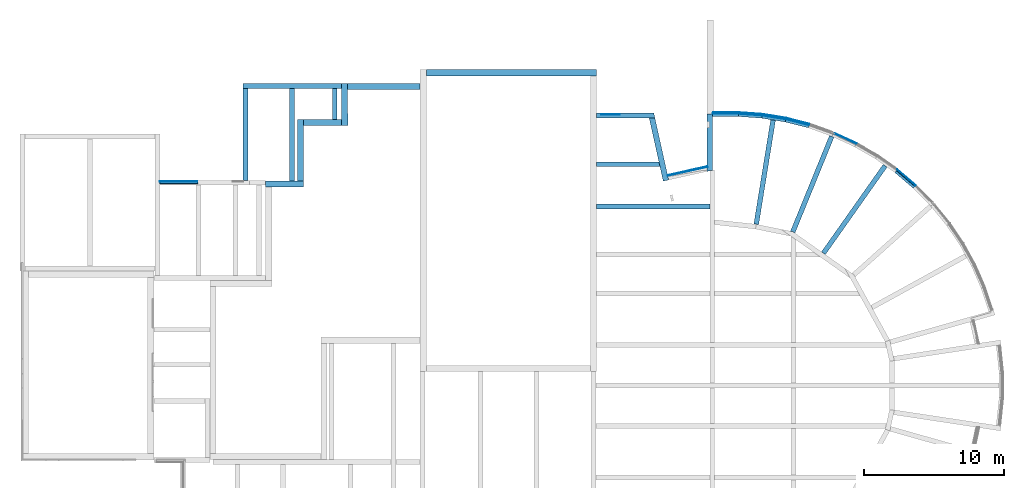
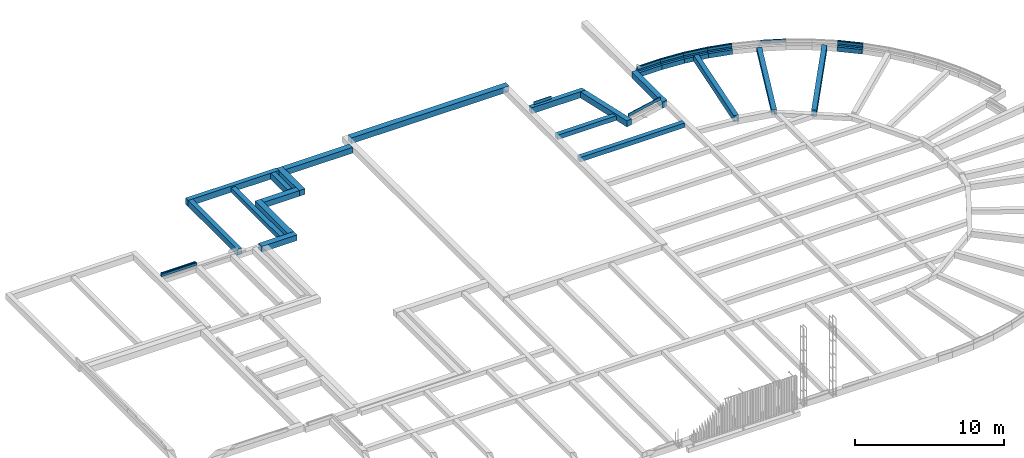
# One storey, part 5 of 11: 38 walls.
"""IFC2X3 building model written with IfcOpenShell, lengths in millimetres."""

import ifcopenshell
import ifcopenshell.guid

model = None  # the IFC model being written
_history = None  # IfcOwnerHistory: only IFC2X3 demands one
_inside = {}  # id of a spatial element -> (the spatial element, [elements in it])
_under = {}  # id of a project, library or spatial element -> (it, [spatial elements below it])
_declared = {}  # id of a project -> (the project, [libraries it declares])
_typed = {}  # id of a type object -> (the type object, [elements of that type])
_made_of = {}  # id of a material, layer set ... -> (it, [elements and type objects made of it])


def new_model(schema):
    """Start an empty IFC model of exactly this schema.

    Asked for "IFC4X3", IfcOpenShell would pick the latest addendum, in which some entities
    have other attributes; the version numbers below select the first issue.
    IFC2X3 requires an IfcOwnerHistory on every rooted entity: one is made here for all.
    """
    global model, _history
    if schema == "IFC4X3":
        model = ifcopenshell.file(schema_version=(4, 3, 0, 0))
    else:
        model = ifcopenshell.file(schema=schema)
    _inside.clear()
    _under.clear()
    _declared.clear()
    _typed.clear()
    _made_of.clear()
    _history = None
    if model.schema == "IFC2X3":
        org = make("IfcOrganization", Name="unknown")
        user = make(
            "IfcPersonAndOrganization",
            ThePerson=make("IfcPerson", FamilyName="unknown"),
            TheOrganization=org,
        )
        app = make(
            "IfcApplication",
            ApplicationDeveloper=org,
            Version="unknown",
            ApplicationFullName="unknown",
            ApplicationIdentifier="unknown",
        )
        _history = make(
            "IfcOwnerHistory",
            OwningUser=user,
            OwningApplication=app,
            ChangeAction="ADDED",
            CreationDate=0,
        )
    return model


def make(cls, **values):
    """One entity of the class cls with the attributes given. An attribute that is None is left unset."""
    return model.create_entity(
        cls, **{name: value for name, value in values.items() if value is not None}
    )


def entity(cls, *values):
    """Any entity or typed value of the class cls, its attributes in the order of the schema. None: left unset."""
    e = model.create_entity(cls)
    for i, value in enumerate(values):
        if value is not None:
            e[i] = value
    return e


def rooted(cls, **values):
    """An entity with a GlobalId (a new one), such as an element, a storey or a relation."""
    return make(cls, GlobalId=ifcopenshell.guid.new(), OwnerHistory=_history, **values)


def si_unit(unit_type, name, prefix=None):
    """IfcSIUnit, for example si_unit("LENGTHUNIT", "METRE", prefix="MILLI")."""
    return make("IfcSIUnit", UnitType=unit_type, Prefix=prefix, Name=name)


def converted_unit(unit_type, name, factor, base, dimensions=None, offset=None):
    """IfcConversionBasedUnit, such as the inch: factor (a typed value) times the base unit."""
    return make(
        "IfcConversionBasedUnit"
        if offset is None
        else "IfcConversionBasedUnitWithOffset",
        ConversionOffset=offset,
        Dimensions=None
        if dimensions is None
        else entity("IfcDimensionalExponents", *dimensions),
        UnitType=unit_type,
        Name=name,
        ConversionFactor=make(
            "IfcMeasureWithUnit", ValueComponent=factor, UnitComponent=base
        ),
    )


def derived_unit(unit_type, elements):
    """IfcDerivedUnit: a product of units, each with its exponent."""
    return make(
        "IfcDerivedUnit",
        Elements=[
            make("IfcDerivedUnitElement", Unit=unit, Exponent=power)
            for unit, power in elements
        ],
        UnitType=unit_type,
    )


def assignment(units):
    """IfcUnitAssignment: the units of a project."""
    return None if units is None else make("IfcUnitAssignment", Units=units)


def point(xyz):
    """IfcCartesianPoint."""
    return None if xyz is None else make("IfcCartesianPoint", Coordinates=xyz)


def direction(xyz):
    """IfcDirection."""
    return None if xyz is None else make("IfcDirection", DirectionRatios=xyz)


def frame(location, z_axis=None, x_axis=None):
    """IfcAxis2Placement3D, a coordinate frame: its origin and axes. An axis left out is left unset."""
    return make(
        "IfcAxis2Placement3D",
        Location=point(location),
        Axis=direction(z_axis),
        RefDirection=direction(x_axis),
    )


def frame_2d(location, x_axis=None):
    """IfcAxis2Placement2D, a coordinate frame in the plane: its origin and x axis."""
    return make(
        "IfcAxis2Placement2D", Location=point(location), RefDirection=direction(x_axis)
    )


def origin():
    """The frame at (0, 0, 0) with its axes left unset."""
    return frame((0.0, 0.0, 0.0))


def place(relative_to, where):
    """IfcLocalPlacement: puts the frame where relative to a parent placement (None: the world)."""
    return make(
        "IfcLocalPlacement", PlacementRelTo=relative_to, RelativePlacement=where
    )


def context(
    kind, dimensions, precision=None, world=None, true_north=None, identifier=None
):
    """IfcGeometricRepresentationContext, for example the 3D "Model" context."""
    return make(
        "IfcGeometricRepresentationContext",
        ContextIdentifier=identifier,
        ContextType=kind,
        CoordinateSpaceDimension=dimensions,
        Precision=precision,
        WorldCoordinateSystem=world,
        TrueNorth=true_north,
    )


def subcontext(parent, identifier, kind, view, scale=None):
    """IfcGeometricRepresentationSubContext, for example "Body" below "Model"."""
    return make(
        "IfcGeometricRepresentationSubContext",
        ContextIdentifier=identifier,
        ContextType=kind,
        ParentContext=parent,
        TargetScale=scale,
        TargetView=view,
    )


def project(units=None, contexts=None):
    """IfcProject with its units and contexts."""
    return rooted(
        "IfcProject",
        Name="project",
        RepresentationContexts=contexts,
        UnitsInContext=assignment(units),
    )


def spatial(cls, under=None, at=None, **own):
    """A site, building, storey or space (cls), placed at a placement, below another one or the project."""
    s = rooted(cls, ObjectPlacement=at, **own)
    if under is not None:
        _under.setdefault(under.id(), (under, []))[1].append(s)
    return s


def polyline(points):
    """IfcPolyline through the points."""
    return make("IfcPolyline", Points=[point(p) for p in points])


def profile(cls, at=None, kind="AREA", **sizes):
    """A parametric profile (cls). Its sizes go by their IFC names, for example OverallWidth=200.0."""
    return make(cls, ProfileType=kind, Position=at, **sizes)


def rectangle(**sizes):
    """IfcRectangleProfileDef."""
    return profile("IfcRectangleProfileDef", **sizes)


def outline(outer, holes=None, kind="AREA"):
    """IfcArbitraryClosedProfileDef: a profile drawn as a closed curve; with holes, ...WithVoids."""
    if holes is None:
        return make("IfcArbitraryClosedProfileDef", ProfileType=kind, OuterCurve=outer)
    return make(
        "IfcArbitraryProfileDefWithVoids",
        ProfileType=kind,
        OuterCurve=outer,
        InnerCurves=holes,
    )


def extrude(swept, where, along, depth):
    """IfcExtrudedAreaSolid: the profile swept, set in the frame where, extruded along a direction by depth."""
    return make(
        "IfcExtrudedAreaSolid",
        SweptArea=swept,
        Position=where,
        ExtrudedDirection=direction(along),
        Depth=depth,
    )


def clip(a, b, op="DIFFERENCE"):
    """IfcBooleanClippingResult: the solid a cut by the half space b."""
    return make(
        "IfcBooleanClippingResult", Operator=op, FirstOperand=a, SecondOperand=b
    )


def bounded_halfspace(plane, agree, where, boundary):
    """IfcPolygonalBoundedHalfSpace: a half space limited to a polygon's prism."""
    return make(
        "IfcPolygonalBoundedHalfSpace",
        BaseSurface=make("IfcPlane", Position=plane),
        AgreementFlag=agree,
        Position=where,
        PolygonalBoundary=boundary,
    )


def shape(context_of_items, identifier, shape_type, items):
    """IfcShapeRepresentation: the items that make up one representation, for example the "Body"."""
    return make(
        "IfcShapeRepresentation",
        ContextOfItems=context_of_items,
        RepresentationIdentifier=identifier,
        RepresentationType=shape_type,
        Items=items,
    )


def material(Name=None, Category=None):
    """IfcMaterial."""
    return make("IfcMaterial", Name=Name, Category=Category)


def layer(
    of_material, thickness, ventilated=None, Name=None, Category=None, Priority=None
):
    """IfcMaterialLayer: one layer of a wall or slab, of a material (None: an air gap)."""
    return make(
        "IfcMaterialLayer",
        Material=of_material,
        LayerThickness=thickness,
        IsVentilated=ventilated,
        Name=Name,
        Category=Category,
        Priority=Priority,
    )


def layer_set(layers, Name=None):
    """IfcMaterialLayerSet."""
    return make("IfcMaterialLayerSet", MaterialLayers=layers, LayerSetName=Name)


def layer_usage(for_layer_set, set_direction, sense, offset, extent=None):
    """IfcMaterialLayerSetUsage: how a layer set lies in its element."""
    return make(
        "IfcMaterialLayerSetUsage",
        ForLayerSet=for_layer_set,
        LayerSetDirection=set_direction,
        DirectionSense=sense,
        OffsetFromReferenceLine=offset,
        ReferenceExtent=extent,
    )


def made_of(thing, what):
    """Note that an element or type object is made of a material, layer set ...; save() writes the relation."""
    if what is not None:
        _made_of.setdefault(what.id(), (what, []))[1].append(thing)
    return thing


def type_object(cls, material=None, **own):
    """A type object (cls), such as IfcWallType, which elements share."""
    return made_of(rooted(cls, **own), material)


def element(
    cls,
    number,
    at=None,
    inside=None,
    cuts=None,
    type_object=None,
    material=None,
    context=None,
    identifier="Body",
    shape_type=None,
    held_by="IfcProductDefinitionShape",
    body=None,
    shapes=None,
    **own,
):
    """One element of the class cls, such as IfcWall. Its Tag is "e" and its number.

    at: its placement. inside: the storey or other place that contains it. cuts: it is an
    opening in that element (IfcRelVoidsElement). A single representation is given by context,
    identifier, shape_type and body (its items); several are given by shapes. held_by: the class
    of the entity that holds the representations. save() writes the other relations.
    """
    e = rooted(cls, Tag="e%d" % number, ObjectPlacement=at, **own)
    if body is not None:
        shapes = [shape(context, identifier, shape_type, body)]
    if shapes is not None:
        e.Representation = make(held_by, Representations=shapes)
    if inside is not None:
        _inside.setdefault(inside.id(), (inside, []))[1].append(e)
    if cuts is not None:
        rooted(
            "IfcRelVoidsElement", RelatingBuildingElement=cuts, RelatedOpeningElement=e
        )
    if type_object is not None:
        _typed.setdefault(type_object.id(), (type_object, []))[1].append(e)
    return made_of(e, material)


def aggregate(whole, parts):
    """IfcRelAggregates: a whole, such as a stair, and the parts it consists of."""
    return rooted("IfcRelAggregates", RelatingObject=whole, RelatedObjects=parts)


def save(model, path):
    """Write the relations noted so far, then the file.

    IfcRelAggregates (storeys below a building ...), IfcRelContainedInSpatialStructure (elements
    in a storey), IfcRelDefinesByType, IfcRelAssociatesMaterial and IfcRelDeclares: one each for
    every whole, place, type object, material and project.
    """
    for whole, parts in _under.values():
        aggregate(whole, parts)
    for where, things in _inside.values():
        rooted(
            "IfcRelContainedInSpatialStructure",
            RelatedElements=things,
            RelatingStructure=where,
        )
    for kind, things in _typed.values():
        rooted("IfcRelDefinesByType", RelatedObjects=things, RelatingType=kind)
    for what, things in _made_of.values():
        rooted("IfcRelAssociatesMaterial", RelatedObjects=things, RelatingMaterial=what)
    for by, libraries in _declared.values():
        rooted("IfcRelDeclares", RelatingContext=by, RelatedDefinitions=libraries)
    model.write(path)


model = new_model("IFC2X3")

# Units and contexts
model_context = context("Model", 3, precision=0.01, world=origin(), true_north=direction((6.12303176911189e-17, 1.0)))
body_context = subcontext(model_context, "Body", "Model", "MODEL_VIEW")
ifc_project = project(units=[si_unit("LENGTHUNIT", "METRE", prefix="MILLI"), si_unit("AREAUNIT", "SQUARE_METRE"), si_unit("VOLUMEUNIT", "CUBIC_METRE"), converted_unit("PLANEANGLEUNIT", "DEGREE", entity("IfcRatioMeasure", 0.0174532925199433), si_unit("PLANEANGLEUNIT", "RADIAN"), dimensions=[0, 0, 0, 0, 0, 0, 0]), si_unit("MASSUNIT", "GRAM", prefix="KILO"), derived_unit("MASSDENSITYUNIT", [(si_unit("MASSUNIT", "GRAM", prefix="KILO"), 1), (si_unit("LENGTHUNIT", "METRE"), -3)]), derived_unit("MOMENTOFINERTIAUNIT", [(si_unit("LENGTHUNIT", "METRE"), 4)]), si_unit("TIMEUNIT", "SECOND"), si_unit("FREQUENCYUNIT", "HERTZ"), si_unit("THERMODYNAMICTEMPERATUREUNIT", "DEGREE_CELSIUS"), derived_unit("THERMALTRANSMITTANCEUNIT", [(si_unit("MASSUNIT", "GRAM", prefix="KILO"), 1), (si_unit("THERMODYNAMICTEMPERATUREUNIT", "KELVIN"), -1), (si_unit("TIMEUNIT", "SECOND"), -3)]), derived_unit("VOLUMETRICFLOWRATEUNIT", [(si_unit("LENGTHUNIT", "METRE"), 3), (si_unit("TIMEUNIT", "SECOND"), -1)]), si_unit("ELECTRICCURRENTUNIT", "AMPERE"), si_unit("ELECTRICVOLTAGEUNIT", "VOLT"), si_unit("POWERUNIT", "WATT"), si_unit("FORCEUNIT", "NEWTON", prefix="KILO"), si_unit("ILLUMINANCEUNIT", "LUX"), si_unit("LUMINOUSFLUXUNIT", "LUMEN"), si_unit("LUMINOUSINTENSITYUNIT", "CANDELA"), derived_unit("USERDEFINED", [(si_unit("MASSUNIT", "GRAM", prefix="KILO"), -1), (si_unit("LENGTHUNIT", "METRE"), -2), (si_unit("TIMEUNIT", "SECOND"), 3), (si_unit("LUMINOUSFLUXUNIT", "LUMEN"), 1)]), derived_unit("LINEARVELOCITYUNIT", [(si_unit("LENGTHUNIT", "METRE"), 1), (si_unit("TIMEUNIT", "SECOND"), -1)]), si_unit("PRESSUREUNIT", "PASCAL"), derived_unit("USERDEFINED", [(si_unit("LENGTHUNIT", "METRE"), -2), (si_unit("MASSUNIT", "GRAM", prefix="KILO"), 1), (si_unit("TIMEUNIT", "SECOND"), -2)]), derived_unit("LINEARFORCEUNIT", [(si_unit("MASSUNIT", "GRAM", prefix="KILO"), 1), (si_unit("LENGTHUNIT", "METRE"), 1), (si_unit("TIMEUNIT", "SECOND"), -2), (si_unit("LENGTHUNIT", "METRE"), -1)]), derived_unit("PLANARFORCEUNIT", [(si_unit("MASSUNIT", "GRAM", prefix="KILO"), 1), (si_unit("LENGTHUNIT", "METRE"), 1), (si_unit("TIMEUNIT", "SECOND"), -2), (si_unit("LENGTHUNIT", "METRE"), -2)])], contexts=[model_context])

# Site, building, storey
site_placement = place(None, origin())
site = spatial("IfcSite", under=ifc_project, at=site_placement, Name="Default", CompositionType="ELEMENT")
building_placement = place(site_placement, origin())
building = spatial("IfcBuilding", under=site, at=building_placement, Name="-", CompositionType="ELEMENT")
storey_placement = place(building_placement, frame((0.0, 0.0, -780.0)))
storey = spatial("IfcBuildingStorey", under=building, at=storey_placement, Name="ok. fundering", CompositionType="ELEMENT", Elevation=-780.0)

# Walls
ifc_material_1 = material(Name="NLRS_n7_Kooltherm Resol hardschuim 0.02 (0.1)_Kingspan")
ifc_layer_1 = layer(ifc_material_1, 105.0)
ifc_layer_set_1 = layer_set([ifc_layer_1], Name="Basic Wall:NLRS_22_WA_LB_isolatie Kooltherm K8 105mm_Kingspan_BO")
ifc_layer_usage_1 = layer_usage(ifc_layer_set_1, "AXIS2", "NEGATIVE", 52.5)
wall_type_1 = type_object("IfcWallType", Name="Basic Wall:NLRS_22_WA_LB_isolatie Kooltherm K8 105mm_Kingspan_BO", PredefinedType="STANDARD", material=ifc_layer_set_1)
wall_1_placement = place(storey_placement, frame((12523.0938505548, 34124.6133714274, 500.0), z_axis=(0.0, 0.0, 1.0), x_axis=(-1.0, 0.0, 0.0)))
element("IfcWallStandardCase", 1, at=wall_1_placement, inside=storey, type_object=wall_type_1, material=ifc_layer_usage_1, Name="Basic Wall:NLRS_22_WA_LB_isolatie Kooltherm K8 105mm_Kingspan_BO", ObjectType="Basic Wall:NLRS_22_WA_LB_isolatie Kooltherm K8 105mm_Kingspan_BO", context=body_context, shape_type="SweptSolid", body=[
    extrude(rectangle(XDim=2726.09385055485, YDim=105.000000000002, at=frame_2d((1363.04692527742, 0.0), x_axis=(-1.0, 0.0))), origin(), (0.0, 0.0, 1.0), 202.000000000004),
])
ifc_material_2 = material(Name="NLRS_g2_baksteen  rood genuanceerd Klamp")
ifc_layer_2 = layer(ifc_material_2, 50.0)
ifc_layer_set_2 = layer_set([ifc_layer_2], Name="Basic Wall:NLRS_20_WA_Metselwerk klamp, Eems wf-p-0081-25")
ifc_layer_usage_2 = layer_usage(ifc_layer_set_2, "AXIS2", "NEGATIVE", 25.0)
wall_type_2 = type_object("IfcWallType", Name="Basic Wall:NLRS_20_WA_Metselwerk klamp, Eems wf-p-0081-25", PredefinedType="STANDARD", material=ifc_layer_set_2)
wall_2_placement = place(storey_placement, frame((49021.9030471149, 35275.7102970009, 500.0), z_axis=(0.0, 0.0, 1.0), x_axis=(-0.97622770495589, -0.216747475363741, 0.0)))
element("IfcWallStandardCase", 2, at=wall_2_placement, inside=storey, type_object=wall_type_2, material=ifc_layer_usage_2, Name="Basic Wall:NLRS_20_WA_Metselwerk klamp, Eems wf-p-0081-25", ObjectType="Basic Wall:NLRS_20_WA_Metselwerk klamp, Eems wf-p-0081-25", context=body_context, shape_type="SweptSolid", body=[
    extrude(rectangle(XDim=2919.99999999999, YDim=49.9999999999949, at=frame_2d((1460.0, -4.56523707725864e-13), x_axis=(-1.0, 0.0))), origin(), (0.0, 0.0, 1.0), 240.0),
])
ifc_layer_usage_3 = layer_usage(ifc_layer_set_2, "AXIS2", "NEGATIVE", 25.0)
wall_3_placement = place(storey_placement, frame((42743.0668104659, 39007.0699531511, 500.0), z_axis=(0.0, 0.0, 1.0), x_axis=(-1.0, 0.0, 0.0)))
element("IfcWallStandardCase", 3, at=wall_3_placement, inside=storey, type_object=wall_type_2, material=ifc_layer_usage_3, Name="Basic Wall:NLRS_20_WA_Metselwerk klamp, Eems wf-p-0081-25", ObjectType="Basic Wall:NLRS_20_WA_Metselwerk klamp, Eems wf-p-0081-25", context=body_context, shape_type="SweptSolid", body=[
    extrude(rectangle(XDim=1330.0, YDim=50.0000000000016, at=frame_2d((665.0, -2.16715534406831e-12), x_axis=(-1.0, 0.0))), origin(), (0.0, 0.0, 1.0), 240.0),
])
ifc_layer_usage_4 = layer_usage(ifc_layer_set_2, "AXIS2", "NEGATIVE", 25.0)
wall_4_placement = place(storey_placement, frame((12490.0938505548, 34222.1133714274, 500.0), z_axis=(0.0, 0.0, 1.0), x_axis=(-1.0, 0.0, 0.0)))
element("IfcWallStandardCase", 4, at=wall_4_placement, inside=storey, type_object=wall_type_2, material=ifc_layer_usage_4, Name="Basic Wall:NLRS_20_WA_Metselwerk klamp, Eems wf-p-0081-25", ObjectType="Basic Wall:NLRS_20_WA_Metselwerk klamp, Eems wf-p-0081-25", context=body_context, shape_type="SweptSolid", body=[
    extrude(rectangle(XDim=2665.09385055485, YDim=49.9999999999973, at=frame_2d((1332.54692527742, 0.0), x_axis=(-1.0, 0.0))), origin(), (0.0, 0.0, 1.0), 239.99999999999),
])
ifc_layer_usage_5 = layer_usage(ifc_layer_set_2, "AXIS2", "NEGATIVE", 25.0)
wall_5_placement = place(storey_placement, frame((63925.8367553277, 33941.916039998, 500.0), z_axis=(0.0, 0.0, 1.0), x_axis=(-0.761440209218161, 0.648235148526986, 0.0)))
element("IfcWallStandardCase", 5, at=wall_5_placement, inside=storey, type_object=wall_type_2, material=ifc_layer_usage_5, Name="Basic Wall:NLRS_20_WA_Metselwerk klamp, Eems wf-p-0081-25", ObjectType="Basic Wall:NLRS_20_WA_Metselwerk klamp, Eems wf-p-0081-25", context=body_context, shape_type="SweptSolid", body=[
    extrude(outline(polyline([(1733.38823576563, -25.0), (1731.11774905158, 25.0), (2.27048671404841, 25.0), (0.0, -25.0), (1733.38823576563, -25.0)])), origin(), (0.0, 0.0, 1.0), 239.99999999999),
])
ifc_layer_usage_6 = layer_usage(ifc_layer_set_2, "AXIS2", "NEGATIVE", 25.0)
wall_6_placement = place(storey_placement, frame((59692.2238356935, 36929.3529970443, 500.0), z_axis=(0.0, 0.0, 1.0), x_axis=(-0.907736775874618, 0.419540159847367, 0.0)))
element("IfcWallStandardCase", 6, at=wall_6_placement, inside=storey, type_object=wall_type_2, material=ifc_layer_usage_6, Name="Basic Wall:NLRS_20_WA_Metselwerk klamp, Eems wf-p-0081-25", ObjectType="Basic Wall:NLRS_20_WA_Metselwerk klamp, Eems wf-p-0081-25", context=body_context, shape_type="SweptSolid", body=[
    extrude(outline(polyline([(1714.4466302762, -25.0), (1713.31322171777, 25.0), (2.27048671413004, 25.0), (0.0, -25.0), (1714.4466302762, -25.0)])), origin(), (0.0, 0.0, 1.0), 240.0),
])
ifc_layer_usage_7 = layer_usage(ifc_layer_set_2, "AXIS2", "NEGATIVE", 25.0)
wall_7_placement = place(storey_placement, frame((56302.756547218, 38321.1246087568, 500.0), z_axis=(0.0, 0.0, 1.0), x_axis=(-0.969212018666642, 0.246227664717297, 0.0)))
element("IfcWallStandardCase", 7, at=wall_7_placement, inside=storey, type_object=wall_type_2, material=ifc_layer_usage_7, Name="Basic Wall:NLRS_20_WA_Metselwerk klamp, Eems wf-p-0081-25", ObjectType="Basic Wall:NLRS_20_WA_Metselwerk klamp, Eems wf-p-0081-25", context=body_context, shape_type="SweptSolid", body=[
    extrude(outline(polyline([(1716.11206053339, -25.0), (1713.89975559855, 25.0), (2.4556776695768, 25.0), (0.0, -25.0), (1716.11206053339, -25.0)])), origin(), (0.0, 0.0, 1.0), 239.99999999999),
])
ifc_layer_usage_8 = layer_usage(ifc_layer_set_2, "AXIS2", "NEGATIVE", 25.0)
wall_8_placement = place(storey_placement, frame((54641.6441708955, 38743.2298942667, 500.0), z_axis=(0.0, 0.0, 1.0), x_axis=(-0.9871712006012, 0.159665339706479, 0.0)))
element("IfcWallStandardCase", 8, at=wall_8_placement, inside=storey, type_object=wall_type_2, material=ifc_layer_usage_8, Name="Basic Wall:NLRS_20_WA_Metselwerk klamp, Eems wf-p-0081-25", ObjectType="Basic Wall:NLRS_20_WA_Metselwerk klamp, Eems wf-p-0081-25", context=body_context, shape_type="SweptSolid", body=[
    extrude(outline(polyline([(1724.65245209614, -25.0), (1722.44292523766, 25.0), (2.2123049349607, 25.0), (0.0, -25.0), (1724.65245209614, -25.0)])), origin(), (0.0, 0.0, 1.0), 239.99999999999),
])
ifc_layer_usage_9 = layer_usage(ifc_layer_set_2, "AXIS2", "NEGATIVE", 25.0)
wall_9_placement = place(storey_placement, frame((52941.3094286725, 39018.34121634, 500.0), z_axis=(0.0, 0.0, 1.0), x_axis=(-0.99740710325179, 0.0719657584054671, 0.0)))
element("IfcWallStandardCase", 9, at=wall_9_placement, inside=storey, type_object=wall_type_2, material=ifc_layer_usage_9, Name="Basic Wall:NLRS_20_WA_Metselwerk klamp, Eems wf-p-0081-25", ObjectType="Basic Wall:NLRS_20_WA_Metselwerk klamp, Eems wf-p-0081-25", context=body_context, shape_type="SweptSolid", body=[
    extrude(outline(polyline([(1714.73810612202, -25.0), (1712.93662663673, 25.0), (2.20952685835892, 25.0), (0.0, -25.0), (1714.73810612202, -25.0)])), origin(), (0.0, 0.0, 1.0), 240.0),
])
ifc_layer_usage_10 = layer_usage(ifc_layer_set_2, "AXIS2", "NEGATIVE", 25.0)
wall_10_placement = place(storey_placement, frame((51232.81660537, 39141.6788221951, 500.0), z_axis=(0.0, 0.0, 1.0), x_axis=(-1.0, 0.0, 0.0)))
element("IfcWallStandardCase", 10, at=wall_10_placement, inside=storey, type_object=wall_type_2, material=ifc_layer_usage_10, Name="Basic Wall:NLRS_20_WA_Metselwerk klamp, Eems wf-p-0081-25", ObjectType="Basic Wall:NLRS_20_WA_Metselwerk klamp, Eems wf-p-0081-25", context=body_context, shape_type="SweptSolid", body=[
    extrude(outline(polyline([(1806.19621523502, -25.0), (1806.19621523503, 2.59644713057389), (1806.19621523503, 25.0), (1.80147948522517, 25.0), (0.0, -25.0), (1806.19621523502, -25.0)])), origin(), (0.0, 0.0, 1.0), 239.99999999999),
])
ifc_material_3 = material(Name="NLRS_f2_beton")
ifc_layer_3 = layer(ifc_material_3, 450.0)
ifc_layer_set_3 = layer_set([ifc_layer_3], Name="Basic Wall:NLRS_16_WA_funderingsbalk 450x...mm_gen_aly")
ifc_layer_usage_11 = layer_usage(ifc_layer_set_3, "AXIS2", "NEGATIVE", 225.0)
wall_type_3 = type_object("IfcWallType", Name="Basic Wall:NLRS_16_WA_funderingsbalk 450x...mm_gen_aly", PredefinedType="STANDARD", material=ifc_layer_set_3)
wall_11_placement = place(storey_placement, frame((23031.3451112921, 41240.2130728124, 0.0), z_axis=(0.0, 0.0, 1.0), x_axis=(0.0064840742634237, -0.999978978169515, 0.0)))
element("IfcWallStandardCase", 11, at=wall_11_placement, inside=storey, type_object=wall_type_3, material=ifc_layer_usage_11, Name="Basic Wall:NLRS_16_WA_funderingsbalk 450x...mm_gen_aly", ObjectType="Basic Wall:NLRS_16_WA_funderingsbalk 450x...mm_gen_aly", context=body_context, shape_type="SweptSolid", body=[
    extrude(outline(polyline([(3030.45237983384, -225.0), (3033.37027459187, 225.0), (452.927354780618, 225.0), (2.91789475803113, 225.0), (0.0, -225.0), (2580.44291981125, -225.0), (3030.45237983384, -225.0)])), origin(), (0.0, 0.0, 1.0), 469.999999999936),
])
ifc_layer_usage_12 = layer_usage(ifc_layer_set_3, "AXIS2", "NEGATIVE", 225.0)
wall_12_placement = place(storey_placement, frame((28454.0, 41013.7541561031, 0.0), z_axis=(0.0, 0.0, 1.0), x_axis=(-1.0, 0.0, 0.0)))
element("IfcWallStandardCase", 12, at=wall_12_placement, inside=storey, type_object=wall_type_3, material=ifc_layer_usage_12, Name="Basic Wall:NLRS_16_WA_funderingsbalk 450x...mm_gen_aly", ObjectType="Basic Wall:NLRS_16_WA_funderingsbalk 450x...mm_gen_aly", context=body_context, shape_type="SweptSolid", body=[
    extrude(outline(polyline([(5197.6406987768, -225.0), (5194.72280401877, 225.0), (0.0, 225.0), (0.0, -225.0), (5197.6406987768, -225.0)])), origin(), (0.0, 0.0, 1.0), 469.999999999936),
])
ifc_layer_usage_13 = layer_usage(ifc_layer_set_3, "AXIS2", "NEGATIVE", 225.0)
wall_13_placement = place(storey_placement, frame((28904.0, 42000.3202504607, 0.0)))
element("IfcWallStandardCase", 13, at=wall_13_placement, inside=storey, type_object=wall_type_3, material=ifc_layer_usage_13, Name="Basic Wall:NLRS_16_WA_funderingsbalk 450x...mm_gen_aly", ObjectType="Basic Wall:NLRS_16_WA_funderingsbalk 450x...mm_gen_aly", context=body_context, shape_type="SweptSolid", body=[
    extrude(rectangle(XDim=12189.0668104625, YDim=450.000000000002, at=frame_2d((6094.53340523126, -2.98427949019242e-13), x_axis=(-1.0, 0.0))), origin(), (0.0, 0.0, 1.0), 469.999999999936),
])
ifc_layer_usage_14 = layer_usage(ifc_layer_set_3, "AXIS2", "NEGATIVE", 225.0)
wall_14_placement = place(storey_placement, frame((17394.6423427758, 34037.1311772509, 0.0)))
element("IfcWallStandardCase", 14, at=wall_14_placement, inside=storey, type_object=wall_type_3, material=ifc_layer_usage_14, Name="Basic Wall:NLRS_16_WA_funderingsbalk 450x...mm_gen_aly", ObjectType="Basic Wall:NLRS_16_WA_funderingsbalk 450x...mm_gen_aly", context=body_context, shape_type="SweptSolid", body=[
    extrude(rectangle(XDim=2715.35765722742, YDim=450.000000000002, at=frame_2d((1357.67882861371, 9.52127265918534e-13), x_axis=(-1.0, 0.0))), origin(), (0.0, 0.0, 1.0), 469.999999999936),
])
ifc_layer_usage_15 = layer_usage(ifc_layer_set_3, "AXIS2", "NEGATIVE", 225.0)
wall_15_placement = place(storey_placement, frame((19885.0, 34262.1311772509, 0.0), z_axis=(0.0, 0.0, 1.0), x_axis=(0.0, 1.0, 0.0)))
element("IfcWallStandardCase", 15, at=wall_15_placement, inside=storey, type_object=wall_type_3, material=ifc_layer_usage_15, Name="Basic Wall:NLRS_16_WA_funderingsbalk 450x...mm_gen_aly", ObjectType="Basic Wall:NLRS_16_WA_funderingsbalk 450x...mm_gen_aly", context=body_context, shape_type="SweptSolid", body=[
    extrude(rectangle(XDim=4396.2343046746, YDim=450.000000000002, at=frame_2d((2198.1171523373, -5.54223333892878e-13), x_axis=(-1.0, 0.0))), origin(), (0.0, 0.0, 1.0), 469.999999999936),
])
ifc_layer_usage_16 = layer_usage(ifc_layer_set_3, "AXIS2", "NEGATIVE", 225.0)
wall_16_placement = place(storey_placement, frame((20110.0, 38433.3654819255, 0.0)))
element("IfcWallStandardCase", 16, at=wall_16_placement, inside=storey, type_object=wall_type_3, material=ifc_layer_usage_16, Name="Basic Wall:NLRS_16_WA_funderingsbalk 450x...mm_gen_aly", ObjectType="Basic Wall:NLRS_16_WA_funderingsbalk 450x...mm_gen_aly", context=body_context, shape_type="SweptSolid", body=[
    extrude(outline(polyline([(2715.99951948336, -225.0), (2713.08162472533, 225.0), (0.0, 225.0), (0.0, -225.0), (2715.99951948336, -225.0)])), origin(), (0.0, 0.0, 1.0), 469.999999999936),
])
ifc_layer_4 = layer(ifc_material_3, 350.0)
ifc_layer_set_4 = layer_set([ifc_layer_4], Name="Basic Wall:NLRS_16_WA_funderingsbalk 350x...mm_gen_aly")
ifc_layer_usage_17 = layer_usage(ifc_layer_set_4, "AXIS2", "NEGATIVE", 175.0)
wall_type_4 = type_object("IfcWallType", Name="Basic Wall:NLRS_16_WA_funderingsbalk 350x...mm_gen_aly", PredefinedType="STANDARD", material=ifc_layer_set_4)
wall_17_placement = place(storey_placement, frame((41093.0668104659, 38927.069953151, 0.0)))
element("IfcWallStandardCase", 17, at=wall_17_placement, inside=storey, type_object=wall_type_4, material=ifc_layer_usage_17, Name="Basic Wall:NLRS_16_WA_funderingsbalk 350x...mm_gen_aly", ObjectType="Basic Wall:NLRS_16_WA_funderingsbalk 350x...mm_gen_aly", context=body_context, shape_type="SweptSolid", body=[
    extrude(outline(polyline([(4165.89019416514, -175.0), (4088.18125803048, 175.0), (0.0, 175.0), (0.0, -175.0), (3756.14972278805, -175.0), (4165.89019416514, -175.0)])), origin(), (0.0, 0.0, 1.0), 499.999999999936),
])
ifc_layer_usage_18 = layer_usage(ifc_layer_set_4, "AXIS2", "NEGATIVE", 175.0)
wall_18_placement = place(storey_placement, frame((15785.0, 41063.7541561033, 0.0)))
element("IfcWallStandardCase", 18, at=wall_18_placement, inside=storey, type_object=wall_type_4, material=ifc_layer_usage_18, Name="Basic Wall:NLRS_16_WA_funderingsbalk 350x...mm_gen_aly", ObjectType="Basic Wall:NLRS_16_WA_funderingsbalk 350x...mm_gen_aly", context=body_context, shape_type="SweptSolid", body=[
    extrude(rectangle(XDim=7022.48457805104, YDim=350.000000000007, at=frame_2d((3511.24228902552, 0.0), x_axis=(-1.0, 0.0))), origin(), (0.0, 0.0, 1.0), 499.999999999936),
])
ifc_layer_usage_19 = layer_usage(ifc_layer_set_4, "AXIS2", "NEGATIVE", 175.0)
wall_19_placement = place(storey_placement, frame((62539.4128996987, 34990.887008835, 0.0), z_axis=(0.0, 0.0, 1.0), x_axis=(0.761440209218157, -0.64823514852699, 0.0)))
element("IfcWallStandardCase", 19, at=wall_19_placement, inside=storey, type_object=wall_type_4, material=ifc_layer_usage_19, Name="Basic Wall:NLRS_16_WA_funderingsbalk 350x...mm_gen_aly", ObjectType="Basic Wall:NLRS_16_WA_funderingsbalk 350x...mm_gen_aly", context=body_context, shape_type="Clipping", body=[
    clip(clip(extrude(outline(polyline([(1722.0358021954, -175.0), (1737.92920919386, 175.0), (0.0, 175.0), (15.8934069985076, -175.0), (1722.0358021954, -175.0)])), origin(), (0.0, 0.0, 1.0), 499.999999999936), bounded_halfspace(frame((1730.48201277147, 11.0, 370.0), z_axis=(0.0, 0.0, -1.0), x_axis=(-0.64823514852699, 0.761440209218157, 0.0)), True, frame((1730.48201277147, 11.0, 370.0), z_axis=(0.0, 0.0, -1.0), x_axis=(-0.64823514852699, 0.761440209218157, 0.0)), polyline([(0.0, 0.0), (-136.152748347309, -127.003021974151), (969.828720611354, -1426.12844432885), (1116.93173009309, -1311.98799105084), (0.0, 0.0)]))), bounded_halfspace(frame((7.44719642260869, 11.0, 370.0), z_axis=(0.0, 1.0, 0.0), x_axis=(0.0, 0.0, 1.0)), True, frame((7.44719642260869, 11.0, 370.0), z_axis=(0.0, 1.0, 0.0), x_axis=(0.0, 0.0, 1.0)), polyline([(0.0, 0.0), (130.0, 0.0), (130.0, 1723.03481634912), (0.0, 1723.03481634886), (0.0, 0.0)]))),
])
ifc_layer_usage_20 = layer_usage(ifc_layer_set_4, "AXIS2", "NEGATIVE", 175.0)
wall_20_placement = place(storey_placement, frame((54608.7876051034, 38647.9373219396, 0.0), z_axis=(0.0, 0.0, 1.0), x_axis=(0.96921201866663, -0.246227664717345, 0.0)))
element("IfcWallStandardCase", 20, at=wall_20_placement, inside=storey, type_object=wall_type_4, material=ifc_layer_usage_20, Name="Basic Wall:NLRS_16_WA_funderingsbalk 350x...mm_gen_aly", ObjectType="Basic Wall:NLRS_16_WA_funderingsbalk 350x...mm_gen_aly", context=body_context, shape_type="Clipping", body=[
    clip(clip(extrude(outline(polyline([(1711.11816020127, -175.0), (1728.30790388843, 175.0), (0.0, 175.0), (15.4861345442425, -175.0), (1711.11816020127, -175.0)])), origin(), (0.0, 0.0, 1.0), 499.999999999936), bounded_halfspace(frame((1720.25328113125, 11.0, 370.0), z_axis=(0.0, 0.0, -1.0), x_axis=(-0.246227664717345, 0.96921201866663, 0.0)), True, frame((1720.25328113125, 11.0, 370.0), z_axis=(0.0, 0.0, -1.0), x_axis=(-0.246227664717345, 0.96921201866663, 0.0)), polyline([(0.0, 0.0), (-178.024115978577, -54.6522146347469), (239.4873979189, -1698.07915313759), (421.787231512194, -1660.25720371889), (0.0, 0.0)]))), bounded_halfspace(frame((7.2563601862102, 11.0, 370.0), z_axis=(0.0, 1.0, 0.0), x_axis=(0.0, 0.0, 1.0)), True, frame((7.2563601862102, 11.0, 370.0), z_axis=(0.0, 1.0, 0.0), x_axis=(0.0, 0.0, 1.0)), polyline([(0.0, 0.0), (130.0, 0.0), (130.0, 1712.99692094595), (0.0, 1712.99692094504), (0.0, 0.0)]))),
])
ifc_layer_usage_21 = layer_usage(ifc_layer_set_4, "AXIS2", "NEGATIVE", 175.0)
wall_21_placement = place(storey_placement, frame((52920.9692238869, 38920.2327787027, 0.0), z_axis=(0.0, 0.0, 1.0), x_axis=(0.987171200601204, -0.159665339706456, 0.0)))
element("IfcWallStandardCase", 21, at=wall_21_placement, inside=storey, type_object=wall_type_4, material=ifc_layer_usage_21, Name="Basic Wall:NLRS_16_WA_funderingsbalk 350x...mm_gen_aly", ObjectType="Basic Wall:NLRS_16_WA_funderingsbalk 350x...mm_gen_aly", context=body_context, shape_type="Clipping", body=[
    clip(clip(extrude(outline(polyline([(1709.61158615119, -175.0), (1725.09772069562, 175.0), (0.0, 175.0), (15.4666880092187, -175.0), (661.978691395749, -175.0), (1011.97869139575, -175.0), (1709.61158615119, -175.0)])), origin(), (0.0, 0.0, 1.0), 499.999999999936), bounded_halfspace(frame((1717.84136050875, 11.0, 370.0), z_axis=(0.0, 0.0, -1.0), x_axis=(-0.159665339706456, 0.987171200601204, 0.0)), True, frame((1717.84136050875, 11.0, 370.0), z_axis=(0.0, 0.0, -1.0), x_axis=(-0.159665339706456, 0.987171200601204, 0.0)), polyline([(0.0, 0.0), (-182.299833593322, -37.82194941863), (88.1963870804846, -1710.23300250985), (273.122590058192, -1688.64924369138), (0.0, 0.0)]))), bounded_halfspace(frame((7.24724809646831, 11.0, 370.0), z_axis=(0.0, 1.0, 0.0), x_axis=(0.0, 0.0, 1.0)), True, frame((7.24724809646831, 11.0, 370.0), z_axis=(0.0, 1.0, 0.0), x_axis=(0.0, 0.0, 1.0)), polyline([(0.0, 0.0), (130.0, 0.0), (130.0, 1710.59411241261), (0.0, 1710.59411241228), (0.0, 0.0)]))),
])
ifc_layer_usage_22 = layer_usage(ifc_layer_set_4, "AXIS2", "NEGATIVE", 175.0)
wall_22_placement = place(storey_placement, frame((51222.0240771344, 39042.132579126, 0.0), z_axis=(0.0, 0.0, 1.0), x_axis=(0.997407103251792, -0.0719657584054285, 0.0)))
element("IfcWallStandardCase", 22, at=wall_22_placement, inside=storey, type_object=wall_type_4, material=ifc_layer_usage_22, Name="Basic Wall:NLRS_16_WA_funderingsbalk 350x...mm_gen_aly", ObjectType="Basic Wall:NLRS_16_WA_funderingsbalk 350x...mm_gen_aly", context=body_context, shape_type="Clipping", body=[
    clip(clip(extrude(outline(polyline([(1703.2824244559, -175.0), (1718.74911246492, 175.0), (0.0, 175.0), (12.6103563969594, -175.0), (1703.2824244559, -175.0)])), origin(), (0.0, 0.0, 1.0), 499.999999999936), bounded_halfspace(frame((1711.5018643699, 11.0, 370.0), z_axis=(0.0, 0.0, -1.0), x_axis=(-0.0719657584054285, 0.997407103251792, 0.0)), True, frame((1711.5018643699, 11.0, 370.0), z_axis=(0.0, 0.0, -1.0), x_axis=(-0.0719657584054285, 0.997407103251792, 0.0)), polyline([(0.0, 0.0), (-184.926202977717, -21.5837588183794), (-63.2557053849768, -1707.87208876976), (122.744294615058, -1701.17058508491), (0.0, 0.0)]))), bounded_halfspace(frame((5.90885271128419, 11.0, 370.0), z_axis=(0.0, 1.0, 0.0), x_axis=(0.0, 0.0, 1.0)), True, frame((5.90885271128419, 11.0, 370.0), z_axis=(0.0, 1.0, 0.0), x_axis=(0.0, 0.0, 1.0)), polyline([(0.0, 0.0), (130.0, 0.0), (130.0, 1705.59301165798), (0.0, 1705.59301165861), (0.0, 0.0)]))),
])
ifc_layer_usage_23 = layer_usage(ifc_layer_set_4, "AXIS2", "NEGATIVE", 175.0)
wall_23_placement = place(storey_placement, frame((49396.6203901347, 39041.6788221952, 0.0)))
element("IfcWallStandardCase", 23, at=wall_23_placement, inside=storey, type_object=wall_type_4, material=ifc_layer_usage_23, Name="Basic Wall:NLRS_16_WA_funderingsbalk 350x...mm_gen_aly", ObjectType="Basic Wall:NLRS_16_WA_funderingsbalk 350x...mm_gen_aly", context=body_context, shape_type="Clipping", body=[
    clip(clip(extrude(outline(polyline([(1825.38733832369, -175.0), (1837.99769472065, 175.0), (0.0, 175.0), (0.0, 1.02465383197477), (0.0, -175.0), (1825.38733832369, -175.0)])), origin(), (0.0, 0.0, 1.0), 499.999999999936), bounded_halfspace(frame((1832.08884200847, 11.0, 370.0), z_axis=(0.0, 0.0, -1.0), x_axis=(0.0, 1.0, 0.0)), True, frame((1832.08884200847, 11.0, 370.0), z_axis=(0.0, 0.0, -1.0), x_axis=(0.0, 1.0, 0.0)), polyline([(0.0, 0.0), (-186.0, -6.70150368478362), (-186.0, -1832.08884200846), (0.0, -1832.08884200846), (0.0, 0.0)]))), bounded_halfspace(frame((0.0, 11.0, 370.0), z_axis=(0.0, 1.0, 0.0), x_axis=(0.0, 0.0, 1.0)), True, frame((0.0, 11.0, 370.0), z_axis=(0.0, 1.0, 0.0), x_axis=(0.0, 0.0, 1.0)), polyline([(0.0, 0.0), (130.0, 0.0), (130.0, 1832.08884200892), (0.0, 1832.08884200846), (0.0, 0.0)]))),
])
ifc_layer_usage_24 = layer_usage(ifc_layer_set_4, "AXIS2", "NEGATIVE", 175.0)
wall_24_placement = place(storey_placement, frame((53719.269049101, 38613.8413315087, 0.0), z_axis=(0.0, 0.0, 1.0), x_axis=(-0.159665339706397, -0.987171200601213, 0.0)))
element("IfcWallStandardCase", 24, at=wall_24_placement, inside=storey, type_object=wall_type_4, material=ifc_layer_usage_24, Name="Basic Wall:NLRS_16_WA_funderingsbalk 350x...mm_gen_aly", ObjectType="Basic Wall:NLRS_16_WA_funderingsbalk 350x...mm_gen_aly", context=body_context, shape_type="SweptSolid", body=[
    extrude(outline(polyline([(7562.98177813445, -175.0), (7553.62381922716, -2.4469154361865), (7560.88508708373, 175.0), (0.0, 175.0), (0.0, -175.0), (7562.98177813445, -175.0)])), origin(), (0.0, 0.0, 1.0), 499.999999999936),
])
ifc_layer_usage_25 = layer_usage(ifc_layer_set_4, "AXIS2", "NEGATIVE", 175.0)
wall_25_placement = place(storey_placement, frame((57915.3560095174, 37438.8329626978, 0.0), z_axis=(0.0, 0.0, 1.0), x_axis=(-0.377638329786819, -0.925953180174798, 0.0)))
element("IfcWallStandardCase", 25, at=wall_25_placement, inside=storey, type_object=wall_type_4, material=ifc_layer_usage_25, Name="Basic Wall:NLRS_16_WA_funderingsbalk 350x...mm_gen_aly", ObjectType="Basic Wall:NLRS_16_WA_funderingsbalk 350x...mm_gen_aly", context=body_context, shape_type="Clipping", body=[
    clip(extrude(outline(polyline([(7394.7870850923, -175.0), (7360.65243023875, 6.4035630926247), (7399.64212751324, 175.0), (0.0, 175.0), (-7.09700091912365, 19.7931285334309), (0.759374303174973, -175.0), (7394.7870850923, -175.0)])), origin(), (0.0, 0.0, 1.0), 369.999999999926), bounded_halfspace(frame((0.759374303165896, -175.0, 370.0), z_axis=(0.0, 0.0, -1.0), x_axis=(-0.925953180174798, -0.377638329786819, 0.0)), True, frame((0.759374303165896, -175.0, 370.0), z_axis=(0.0, 0.0, -1.0), x_axis=(-0.925953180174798, -0.377638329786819, 0.0)), polyline([(0.0, 0.0), (-66.2867160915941, 183.336185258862), (-131.470270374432, 324.370381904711), (-6983.19243050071, -2470.01811214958), (-6883.42131947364, -2611.40651491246), (-6846.52347310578, -2792.26827509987), (0.0, 0.0)]))),
])
ifc_layer_usage_26 = layer_usage(ifc_layer_set_4, "AXIS2", "NEGATIVE", 175.0)
wall_26_placement = place(storey_placement, frame((61737.9500250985, 35341.3738850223, 0.0), z_axis=(0.0, 0.0, 1.0), x_axis=(-0.576555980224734, -0.817057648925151, 0.0)))
element("IfcWallStandardCase", 26, at=wall_26_placement, inside=storey, type_object=wall_type_4, material=ifc_layer_usage_26, Name="Basic Wall:NLRS_16_WA_funderingsbalk 350x...mm_gen_aly", ObjectType="Basic Wall:NLRS_16_WA_funderingsbalk 350x...mm_gen_aly", context=body_context, shape_type="SweptSolid", body=[
    extrude(rectangle(XDim=7660.14481492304, YDim=350.000000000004, at=frame_2d((3830.07240746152, 7.95807864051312e-13), x_axis=(-1.0, 0.0))), origin(), (0.0, 0.0, 1.0), 499.999999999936),
])
ifc_layer_usage_27 = layer_usage(ifc_layer_set_4, "AXIS2", "NEGATIVE", 175.0)
wall_27_placement = place(storey_placement, frame((15960.0, 34297.1133714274, 0.0), z_axis=(0.0, 0.0, 1.0), x_axis=(0.0, 1.0, 0.0)))
element("IfcWallStandardCase", 27, at=wall_27_placement, inside=storey, type_object=wall_type_4, material=ifc_layer_usage_27, Name="Basic Wall:NLRS_16_WA_funderingsbalk 350x...mm_gen_aly", ObjectType="Basic Wall:NLRS_16_WA_funderingsbalk 350x...mm_gen_aly", context=body_context, shape_type="SweptSolid", body=[
    extrude(rectangle(XDim=6591.64078467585, YDim=349.999999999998, at=frame_2d((3295.82039233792, 4.2632564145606e-14), x_axis=(-1.0, 0.0))), origin(), (0.0, 0.0, 1.0), 499.999999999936),
])
ifc_layer_usage_28 = layer_usage(ifc_layer_set_4, "AXIS2", "NEGATIVE", 175.0)
wall_28_placement = place(storey_placement, frame((41093.0668104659, 32438.7418318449, 0.0)))
element("IfcWallStandardCase", 28, at=wall_28_placement, inside=storey, type_object=wall_type_4, material=ifc_layer_usage_28, Name="Basic Wall:NLRS_16_WA_funderingsbalk 350x...mm_gen_aly", ObjectType="Basic Wall:NLRS_16_WA_funderingsbalk 350x...mm_gen_aly", context=body_context, shape_type="Clipping", body=[
    clip(extrude(rectangle(XDim=8093.55357966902, YDim=349.999999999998, at=frame_2d((4046.77678983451, 9.09494701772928e-13), x_axis=(-1.0, 0.0))), origin(), (0.0, 0.0, 1.0), 369.999999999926), bounded_halfspace(frame((0.0, -175.0, 370.0), z_axis=(0.0, 0.0, -1.0), x_axis=(0.0, 1.0, 0.0)), True, frame((0.0, -175.0, 370.0), z_axis=(0.0, 0.0, -1.0), x_axis=(0.0, 1.0, 0.0)), polyline([(0.0, 0.0), (350.0, 0.0), (350.0, 8093.55357966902), (0.0, 8093.55357966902), (0.0, 0.0)]))),
])
ifc_layer_usage_29 = layer_usage(ifc_layer_set_4, "AXIS2", "NEGATIVE", 175.0)
wall_29_placement = place(storey_placement, frame((41093.0668104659, 35452.0699531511, 0.0)))
element("IfcWallStandardCase", 29, at=wall_29_placement, inside=storey, type_object=wall_type_4, material=ifc_layer_usage_29, Name="Basic Wall:NLRS_16_WA_funderingsbalk 350x...mm_gen_aly", ObjectType="Basic Wall:NLRS_16_WA_funderingsbalk 350x...mm_gen_aly", context=body_context, shape_type="Clipping", body=[
    clip(extrude(outline(polyline([(4527.68844583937, -175.0), (4449.97950970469, 175.0), (0.0, 175.0), (0.0, -175.0), (4527.68844583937, -175.0)])), origin(), (0.0, 0.0, 1.0), 369.999999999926), bounded_halfspace(frame((0.0, -175.0, 370.0), z_axis=(0.0, 0.0, -1.0), x_axis=(0.0, 1.0, 0.0)), True, frame((0.0, -175.0, 370.0), z_axis=(0.0, 0.0, -1.0), x_axis=(0.0, 1.0, 0.0)), polyline([(0.0, 0.0), (350.0, 0.0), (350.0, 4449.9795097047), (0.0, 4527.68844583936), (0.0, 0.0)]))),
])
ifc_layer_usage_30 = layer_usage(ifc_layer_set_4, "AXIS2", "NEGATIVE", 175.0)
wall_30_placement = place(storey_placement, frame((19284.659173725, 40888.7541561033, 0.0), z_axis=(0.0, 0.0, 1.0), x_axis=(0.0, -1.0, 0.0)))
element("IfcWallStandardCase", 30, at=wall_30_placement, inside=storey, type_object=wall_type_4, material=ifc_layer_usage_30, Name="Basic Wall:NLRS_16_WA_funderingsbalk 350x...mm_gen_aly", ObjectType="Basic Wall:NLRS_16_WA_funderingsbalk 350x...mm_gen_aly", context=body_context, shape_type="Clipping", body=[
    clip(extrude(rectangle(XDim=6626.62297885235, YDim=349.999999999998, at=frame_2d((3313.31148942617, 2.27373675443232e-13), x_axis=(-1.0, 0.0))), origin(), (0.0, 0.0, 1.0), 369.999999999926), bounded_halfspace(frame((0.0, -175.0, 370.0), z_axis=(0.0, 0.0, -1.0), x_axis=(-1.0, 0.0, 0.0)), True, frame((0.0, -175.0, 370.0), z_axis=(0.0, 0.0, -1.0), x_axis=(-1.0, 0.0, 0.0)), polyline([(0.0, 0.0), (0.0, 350.0), (-6626.62297885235, 350.0), (-6626.62297885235, 0.0), (0.0, 0.0)]))),
])
ifc_layer_usage_31 = layer_usage(ifc_layer_set_4, "AXIS2", "NEGATIVE", 175.0)
wall_31_placement = place(storey_placement, frame((22341.9970801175, 40888.7541561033, 0.0), z_axis=(0.0, 0.0, 1.0), x_axis=(0.0, -1.0, 0.0)))
element("IfcWallStandardCase", 31, at=wall_31_placement, inside=storey, type_object=wall_type_4, material=ifc_layer_usage_31, Name="Basic Wall:NLRS_16_WA_funderingsbalk 350x...mm_gen_aly", ObjectType="Basic Wall:NLRS_16_WA_funderingsbalk 350x...mm_gen_aly", context=body_context, shape_type="SweptSolid", body=[
    extrude(rectangle(XDim=2230.38867417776, YDim=349.999999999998, at=frame_2d((1115.19433708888, 6.96331881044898e-13), x_axis=(-1.0, 0.0))), origin(), (0.0, 0.0, 1.0), 499.999999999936),
])
ifc_layer_5 = layer(ifc_material_3, 400.0)
ifc_layer_set_5 = layer_set([ifc_layer_5], Name="Basic Wall:NLRS_16_WA_funderingsbalk 400x...mm_gen_aly")
ifc_layer_usage_32 = layer_usage(ifc_layer_set_5, "AXIS2", "NEGATIVE", 200.0)
wall_type_5 = type_object("IfcWallType", Name="Basic Wall:NLRS_16_WA_funderingsbalk 400x...mm_gen_aly", PredefinedType="STANDARD", material=ifc_layer_set_5)
wall_32_placement = place(storey_placement, frame((45044.4620742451, 38795.4194482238, 0.0), z_axis=(0.0, 0.0, 1.0), x_axis=(0.216747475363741, -0.97622770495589, 0.0)))
element("IfcWallStandardCase", 32, at=wall_32_placement, inside=storey, type_object=wall_type_5, material=ifc_layer_usage_32, Name="Basic Wall:NLRS_16_WA_funderingsbalk 400x...mm_gen_aly", ObjectType="Basic Wall:NLRS_16_WA_funderingsbalk 400x...mm_gen_aly", context=body_context, shape_type="SweptSolid", body=[
    extrude(outline(polyline([(4623.13787608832, -200.0), (4623.13787608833, 200.0), (4273.13787608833, 200.0), (88.8102127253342, 200.0), (0.0, -200.0), (3201.09743263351, -200.0), (3559.62034508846, -200.0), (4623.13787608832, -200.0)])), origin(), (0.0, 0.0, 1.0), 499.999999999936),
])
ifc_layer_usage_33 = layer_usage(ifc_layer_set_5, "AXIS2", "NEGATIVE", 200.0)
wall_33_placement = place(storey_placement, frame((49196.6203901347, 39042.7034760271, 0.0), z_axis=(0.0, 0.0, 1.0), x_axis=(0.0, -1.0, 0.0)))
element("IfcWallStandardCase", 33, at=wall_33_placement, inside=storey, type_object=wall_type_5, material=ifc_layer_usage_33, Name="Basic Wall:NLRS_16_WA_funderingsbalk 400x...mm_gen_aly", ObjectType="Basic Wall:NLRS_16_WA_funderingsbalk 400x...mm_gen_aly", context=body_context, shape_type="SweptSolid", body=[
    extrude(outline(polyline([(4105.52070738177, -200.0), (4063.3358563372, -10.0), (4016.71049465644, 200.0), (176.024653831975, 200.0), (0.0, 200.0), (0.0, -200.0), (3746.99779492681, -200.0), (4105.52070738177, -200.0)])), origin(), (0.0, 0.0, 1.0), 499.999999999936),
])
ifc_material_4 = material(Name="NLRS_n7_isolatie PIR_gen")
ifc_layer_6 = layer(ifc_material_4, 60.0)
ifc_layer_set_6 = layer_set([ifc_layer_6], Name="Basic Wall:NLRS_22_WA_LB_isolatie PIR 60mm")
ifc_layer_usage_34 = layer_usage(ifc_layer_set_6, "AXIS2", "NEGATIVE", 30.0)
wall_type_6 = type_object("IfcWallType", Name="Basic Wall:NLRS_22_WA_LB_isolatie PIR 60mm", PredefinedType="STANDARD", material=ifc_layer_set_6)
wall_34_placement = place(storey_placement, frame((63885.7237344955, 33898.58062169, 500.0), z_axis=(0.0, 0.0, 1.0), x_axis=(-0.761440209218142, 0.648235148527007, 0.0)))
element("IfcWallStandardCase", 34, at=wall_34_placement, inside=storey, type_object=wall_type_6, material=ifc_layer_usage_34, Name="Basic Wall:NLRS_22_WA_LB_isolatie PIR 60mm", ObjectType="Basic Wall:NLRS_22_WA_LB_isolatie PIR 60mm", context=body_context, shape_type="SweptSolid", body=[
    extrude(outline(polyline([(1728.48398446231, -30.0), (1725.75940040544, 30.0), (2.72458405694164, 30.0), (0.0, -30.0), (1728.48398446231, -30.0)])), origin(), (0.0, 0.0, 1.0), 201.99999999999),
])
ifc_layer_usage_35 = layer_usage(ifc_layer_set_6, "AXIS2", "NEGATIVE", 30.0)
wall_35_placement = place(storey_placement, frame((56289.0291813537, 38263.3754796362, 500.0), z_axis=(0.0, 0.0, 1.0), x_axis=(-0.969212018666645, 0.246227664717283, 0.0)))
element("IfcWallStandardCase", 35, at=wall_35_placement, inside=storey, type_object=wall_type_6, material=ifc_layer_usage_35, Name="Basic Wall:NLRS_22_WA_LB_isolatie PIR 60mm", ObjectType="Basic Wall:NLRS_22_WA_LB_isolatie PIR 60mm", context=body_context, shape_type="SweptSolid", body=[
    extrude(outline(polyline([(1718.59850007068, -30.0), (1715.94373414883, 30.0), (2.94681320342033, 30.0), (0.0, -30.0), (1718.59850007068, -30.0)])), origin(), (0.0, 0.0, 1.0), 201.99999999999),
])
ifc_layer_usage_36 = layer_usage(ifc_layer_set_6, "AXIS2", "NEGATIVE", 30.0)
wall_36_placement = place(storey_placement, frame((54625.9397295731, 38686.0031994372, 500.0), z_axis=(0.0, 0.0, 1.0), x_axis=(-0.9871712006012, 0.159665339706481, 0.0)))
element("IfcWallStandardCase", 36, at=wall_36_placement, inside=storey, type_object=wall_type_6, material=ifc_layer_usage_36, Name="Basic Wall:NLRS_22_WA_LB_isolatie PIR 60mm", ObjectType="Basic Wall:NLRS_22_WA_LB_isolatie PIR 60mm", context=body_context, shape_type="SweptSolid", body=[
    extrude(outline(polyline([(1715.90031056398, -30.0), (1713.24887833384, 30.0), (2.65476592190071, 30.0), (0.0, -30.0), (1715.90031056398, -30.0)])), origin(), (0.0, 0.0, 1.0), 201.99999999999),
])
ifc_layer_usage_37 = layer_usage(ifc_layer_set_6, "AXIS2", "NEGATIVE", 30.0)
wall_37_placement = place(storey_placement, frame((52934.6833473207, 38959.6659283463, 500.0), z_axis=(0.0, 0.0, 1.0), x_axis=(-0.99740710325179, 0.0719657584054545, 0.0)))
element("IfcWallStandardCase", 37, at=wall_37_placement, inside=storey, type_object=wall_type_6, material=ifc_layer_usage_37, Name="Basic Wall:NLRS_22_WA_LB_isolatie PIR 60mm", ObjectType="Basic Wall:NLRS_22_WA_LB_isolatie PIR 60mm", context=body_context, shape_type="SweptSolid", body=[
    extrude(outline(polyline([(1710.40621927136, -30.0), (1708.24444388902, 30.0), (2.65143223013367, 30.0), (0.0, -30.0), (1710.40621927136, -30.0)])), origin(), (0.0, 0.0, 1.0), 201.99999999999),
])
ifc_layer_usage_38 = layer_usage(ifc_layer_set_6, "AXIS2", "NEGATIVE", 30.0)
wall_38_placement = place(storey_placement, frame((51230.8710075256, 39082.6788221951, 500.0), z_axis=(0.0, 0.0, 1.0), x_axis=(-1.0, 0.0, 0.0)))
element("IfcWallStandardCase", 38, at=wall_38_placement, inside=storey, type_object=wall_type_6, material=ifc_layer_usage_38, Name="Basic Wall:NLRS_22_WA_LB_isolatie PIR 60mm", ObjectType="Basic Wall:NLRS_22_WA_LB_isolatie PIR 60mm", context=body_context, shape_type="SweptSolid", body=[
    extrude(outline(polyline([(1842.25061739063, -30.0), (1842.25061739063, 30.0), (2.1617753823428, 30.0), (0.0, -30.0), (1842.25061739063, -30.0)])), origin(), (0.0, 0.0, 1.0), 201.99999999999),
])

save(model, "model.ifc")
